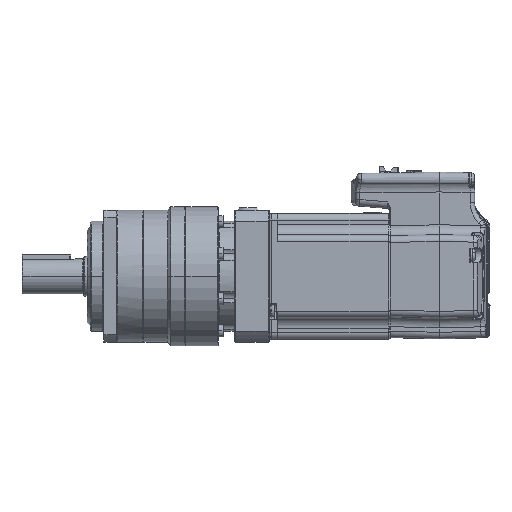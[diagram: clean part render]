
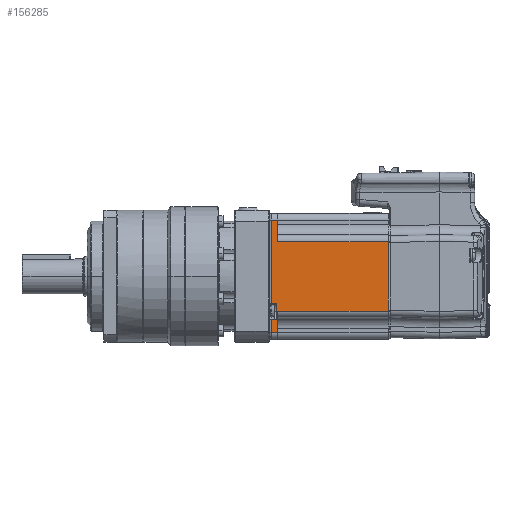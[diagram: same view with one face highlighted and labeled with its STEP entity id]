
A CAD part, left-side view. The second image highlights one B-rep face of the part: STEP entity #156285.
In plain terms, the highlighted planar face has unit normal (-1, 0, 0).
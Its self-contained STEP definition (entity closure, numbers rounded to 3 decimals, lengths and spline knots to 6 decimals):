
#9566 = CARTESIAN_POINT ( 'NONE',  ( -0.028182, 0.007208, -0.0255 ) ) ;
#9569 = CARTESIAN_POINT ( 'NONE',  ( -0.028182, 0.058208, -0.0285 ) ) ;
#9581 = DIRECTION ( 'NONE',  ( 0., 0., 1. ) ) ;
#9586 = DIRECTION ( 'NONE',  ( 0., -1., 0. ) ) ;
#9591 = DIRECTION ( 'NONE',  ( 0., 0., -1. ) ) ;
#9599 = CARTESIAN_POINT ( 'NONE',  ( -0.028182, 0.061208, -0.0285 ) ) ;
#9602 = DIRECTION ( 'NONE',  ( 0., 0., -1. ) ) ;
#9604 = CARTESIAN_POINT ( 'NONE',  ( -0.028182, 0.007208, -0.0196 ) ) ;
#9607 = DIRECTION ( 'NONE',  ( 0., 1., 0. ) ) ;
#9610 = CARTESIAN_POINT ( 'NONE',  ( -0.028182, 0.007208, -0.0122 ) ) ;
#9612 = CARTESIAN_POINT ( 'NONE',  ( -0.028182, 0.061208, -0.0285 ) ) ;
#9614 = CARTESIAN_POINT ( 'NONE',  ( -0.028182, 0.058708, -0.0285 ) ) ;
#9628 = DIRECTION ( 'NONE',  ( 0., -1., 0. ) ) ;
#9638 = DIRECTION ( 'NONE',  ( 0., 0., -1. ) ) ;
#9643 = CARTESIAN_POINT ( 'NONE',  ( -0.028182, 0.007208, 0.0255 ) ) ;
#9656 = DIRECTION ( 'NONE',  ( 0., 1., 0. ) ) ;
#9684 = DIRECTION ( 'NONE',  ( 0., 0., 1. ) ) ;
#9690 = CARTESIAN_POINT ( 'NONE',  ( -0.028182, 0.058208, -0.0285 ) ) ;
#56240 = EDGE_LOOP ( 'NONE', ( #88281, #88283, #88285, #88287, #88289, #88291, #88293, #88295, #88297, #88299, #88301, #88303 ) ) ;
#63529 = FACE_OUTER_BOUND ( 'NONE', #56240, .T. ) ;
#65209 = EDGE_CURVE ( 'NONE', #119071, #119065, #114986, .T. ) ;
#65210 = EDGE_CURVE ( 'NONE', #118929, #119071, #114988, .T. ) ;
#65213 = EDGE_CURVE ( 'NONE', #119057, #118929, #115009, .T. ) ;
#65214 = EDGE_CURVE ( 'NONE', #119043, #119057, #115014, .T. ) ;
#65216 = EDGE_CURVE ( 'NONE', #119051, #119043, #114994, .T. ) ;
#65218 = EDGE_CURVE ( 'NONE', #119049, #119051, #115026, .T. ) ;
#65220 = EDGE_CURVE ( 'NONE', #118912, #119049, #115035, .T. ) ;
#65223 = EDGE_CURVE ( 'NONE', #119038, #118912, #115058, .T. ) ;
#65229 = EDGE_CURVE ( 'NONE', #119040, #119038, #115084, .T. ) ;
#81591 = CARTESIAN_POINT ( 'NONE',  ( -0.028182, 0.058208, -0.01577 ) ) ;
#81592 = DIRECTION ( 'NONE',  ( 0., 1., 0. ) ) ;
#81605 = CARTESIAN_POINT ( 'NONE',  ( -0.028182, 0.008208, 0.01577 ) ) ;
#81606 = DIRECTION ( 'NONE',  ( 0., 0., -1. ) ) ;
#81607 = CARTESIAN_POINT ( 'NONE',  ( -0.028182, 0.007208, 0.01577 ) ) ;
#81608 = DIRECTION ( 'NONE',  ( 0., 1., 0. ) ) ;
#84914 = LINE ( 'NONE', #81591, #84916 ) ;
#84915 = LINE ( 'NONE', #81605, #84918 ) ;
#84916 = VECTOR ( 'NONE', #81592, 1. ) ;
#84917 = LINE ( 'NONE', #81607, #84920 ) ;
#84918 = VECTOR ( 'NONE', #81606, 1. ) ;
#84920 = VECTOR ( 'NONE', #81608, 1. ) ;
#88281 = ORIENTED_EDGE ( 'NONE', *, *, #91886, .F. ) ;
#88283 = ORIENTED_EDGE ( 'NONE', *, *, #91889, .T. ) ;
#88285 = ORIENTED_EDGE ( 'NONE', *, *, #65229, .T. ) ;
#88287 = ORIENTED_EDGE ( 'NONE', *, *, #65223, .T. ) ;
#88289 = ORIENTED_EDGE ( 'NONE', *, *, #65220, .T. ) ;
#88291 = ORIENTED_EDGE ( 'NONE', *, *, #65218, .T. ) ;
#88293 = ORIENTED_EDGE ( 'NONE', *, *, #65216, .T. ) ;
#88295 = ORIENTED_EDGE ( 'NONE', *, *, #65214, .T. ) ;
#88297 = ORIENTED_EDGE ( 'NONE', *, *, #65213, .T. ) ;
#88299 = ORIENTED_EDGE ( 'NONE', *, *, #65210, .T. ) ;
#88301 = ORIENTED_EDGE ( 'NONE', *, *, #65209, .T. ) ;
#88303 = ORIENTED_EDGE ( 'NONE', *, *, #91884, .F. ) ;
#91884 = EDGE_CURVE ( 'NONE', #119138, #119065, #84914, .T. ) ;
#91886 = EDGE_CURVE ( 'NONE', #119117, #119138, #84915, .T. ) ;
#91889 = EDGE_CURVE ( 'NONE', #119117, #119040, #84917, .T. ) ;
#114986 = LINE ( 'NONE', #9569, #114997 ) ;
#114988 = LINE ( 'NONE', #9566, #115003 ) ;
#114994 = LINE ( 'NONE', #9614, #115032 ) ;
#114997 = VECTOR ( 'NONE', #9581, 1. ) ;
#115003 = VECTOR ( 'NONE', #9586, 1. ) ;
#115009 = LINE ( 'NONE', #9599, #115018 ) ;
#115014 = LINE ( 'NONE', #9604, #115023 ) ;
#115018 = VECTOR ( 'NONE', #9602, 1. ) ;
#115023 = VECTOR ( 'NONE', #9607, 1. ) ;
#115026 = LINE ( 'NONE', #9610, #115044 ) ;
#115032 = VECTOR ( 'NONE', #9591, 1. ) ;
#115035 = LINE ( 'NONE', #9612, #115055 ) ;
#115044 = VECTOR ( 'NONE', #9628, 1. ) ;
#115055 = VECTOR ( 'NONE', #9638, 1. ) ;
#115058 = LINE ( 'NONE', #9643, #115070 ) ;
#115070 = VECTOR ( 'NONE', #9656, 1. ) ;
#115084 = LINE ( 'NONE', #9690, #115096 ) ;
#115096 = VECTOR ( 'NONE', #9684, 1. ) ;
#115987 = CARTESIAN_POINT ( 'NONE',  ( -0.028182, 0.007208, -0.0285 ) ) ;
#116010 = PLANE ( 'NONE',  #120798 ) ;
#116021 = DIRECTION ( 'NONE',  ( -1., 0., 0. ) ) ;
#116023 = DIRECTION ( 'NONE',  ( 0., 0., 1. ) ) ;
#118912 = VERTEX_POINT ( 'NONE', #160791 ) ;
#118929 = VERTEX_POINT ( 'NONE', #160797 ) ;
#119038 = VERTEX_POINT ( 'NONE', #160838 ) ;
#119040 = VERTEX_POINT ( 'NONE', #160839 ) ;
#119043 = VERTEX_POINT ( 'NONE', #160840 ) ;
#119049 = VERTEX_POINT ( 'NONE', #160842 ) ;
#119051 = VERTEX_POINT ( 'NONE', #160843 ) ;
#119057 = VERTEX_POINT ( 'NONE', #160845 ) ;
#119065 = VERTEX_POINT ( 'NONE', #160848 ) ;
#119071 = VERTEX_POINT ( 'NONE', #160850 ) ;
#119117 = VERTEX_POINT ( 'NONE', #160869 ) ;
#119138 = VERTEX_POINT ( 'NONE', #160877 ) ;
#120798 = AXIS2_PLACEMENT_3D ( 'NONE', #115987, #116021, #116023 ) ;
#156285 = ADVANCED_FACE ( 'NONE', ( #63529 ), #116010, .T. ) ;
#160791 = CARTESIAN_POINT ( 'NONE',  ( -0.028182, 0.061208, 0.0255 ) ) ;
#160797 = CARTESIAN_POINT ( 'NONE',  ( -0.028182, 0.061208, -0.0255 ) ) ;
#160838 = CARTESIAN_POINT ( 'NONE',  ( -0.028182, 0.058208, 0.0255 ) ) ;
#160839 = CARTESIAN_POINT ( 'NONE',  ( -0.028182, 0.058208, 0.01577 ) ) ;
#160840 = CARTESIAN_POINT ( 'NONE',  ( -0.028182, 0.058708, -0.0196 ) ) ;
#160842 = CARTESIAN_POINT ( 'NONE',  ( -0.028182, 0.061208, -0.0122 ) ) ;
#160843 = CARTESIAN_POINT ( 'NONE',  ( -0.028182, 0.058708, -0.0122 ) ) ;
#160845 = CARTESIAN_POINT ( 'NONE',  ( -0.028182, 0.061208, -0.0196 ) ) ;
#160848 = CARTESIAN_POINT ( 'NONE',  ( -0.028182, 0.058208, -0.01577 ) ) ;
#160850 = CARTESIAN_POINT ( 'NONE',  ( -0.028182, 0.058208, -0.0255 ) ) ;
#160869 = CARTESIAN_POINT ( 'NONE',  ( -0.028182, 0.008208, 0.01577 ) ) ;
#160877 = CARTESIAN_POINT ( 'NONE',  ( -0.028182, 0.008208, -0.01577 ) ) ;
